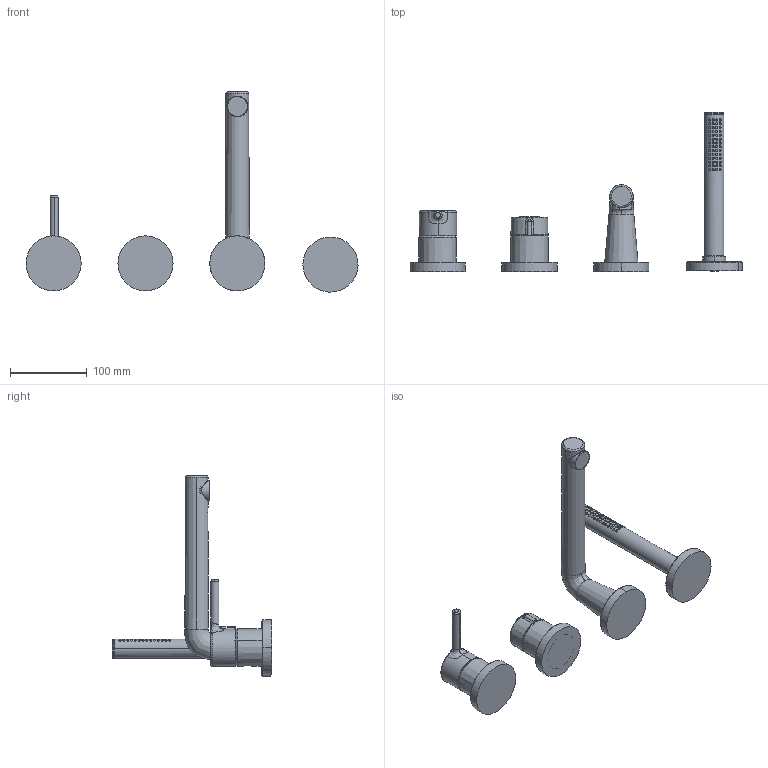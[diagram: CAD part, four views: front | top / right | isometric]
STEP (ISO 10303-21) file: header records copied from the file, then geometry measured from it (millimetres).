
FILE_DESCRIPTION (( 'STEP AP203' ), '1' );
FILE_NAME ('54719007(2024).STEP', '2023-11-08T07:03:45', ( '' ), ( '' ), 'SwSTEP 2.0', 'SolidWorks 2016', '' );
FILE_SCHEMA (( 'CONFIG_CONTROL_DESIGN' ));
Length unit declared in the file: millimetre
Products named in the file (1): 54719007(2024)
Bounding box: 433.48 x 207.99 x 261.5 mm (x, y, z)
Volume: 847369.6 mm3; surface area: 140326.6 mm2
Topology: 13 solids, 13 shells, 203 faces, 424 edges, 307 vertices
Faces by surface type: bspline 114, cylinder 31, plane 31, cone 17, torus 8, sphere 2
Entity records: 19580 total; most frequent: CARTESIAN_POINT 15746, ORIENTED_EDGE 846, DIRECTION 553, EDGE_CURVE 423, VERTEX_POINT 307, EDGE_LOOP 264, AXIS2_PLACEMENT_3D 251, ADVANCED_FACE 203
